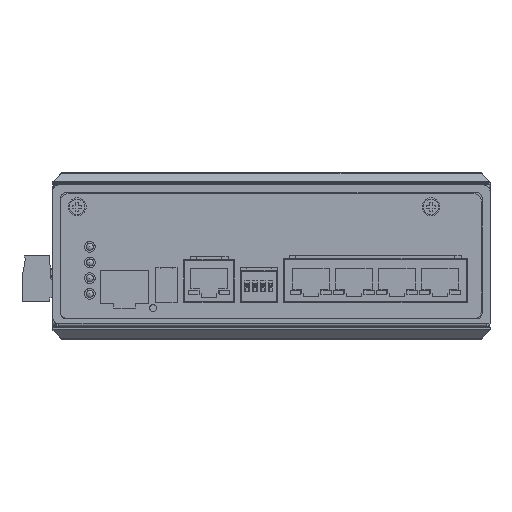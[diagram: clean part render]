
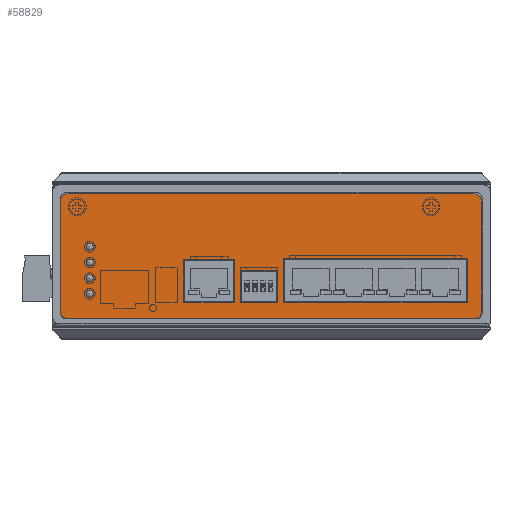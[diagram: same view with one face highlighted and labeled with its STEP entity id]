
A CAD part, top view. The second image highlights one B-rep face of the part: STEP entity #58829.
In plain terms, the highlighted planar face has unit normal (0, 0, 1).
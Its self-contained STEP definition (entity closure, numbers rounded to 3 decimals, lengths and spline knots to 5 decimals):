
#2985=LINE('',#91644,#8692);
#2989=LINE('',#91653,#8696);
#2992=LINE('',#91659,#8699);
#2994=LINE('',#91662,#8701);
#2997=LINE('',#91668,#8704);
#3001=LINE('',#91677,#8708);
#3004=LINE('',#91683,#8711);
#3006=LINE('',#91686,#8713);
#3009=LINE('',#91692,#8716);
#3012=LINE('',#91698,#8719);
#3015=LINE('',#91704,#8722);
#3019=LINE('',#91711,#8726);
#3020=LINE('',#91733,#8727);
#3021=LINE('',#91738,#8728);
#3022=LINE('',#91742,#8729);
#3023=LINE('',#91746,#8730);
#8692=VECTOR('',#73908,1.);
#8696=VECTOR('',#73914,1.);
#8699=VECTOR('',#73919,1.);
#8701=VECTOR('',#73923,1.);
#8704=VECTOR('',#73928,1.);
#8708=VECTOR('',#73934,1.);
#8711=VECTOR('',#73939,1.);
#8713=VECTOR('',#73943,1.);
#8716=VECTOR('',#73948,1.);
#8719=VECTOR('',#73953,1.);
#8722=VECTOR('',#73958,1.);
#8726=VECTOR('',#73964,1.);
#8727=VECTOR('',#73991,1.);
#8728=VECTOR('',#73994,1.);
#8729=VECTOR('',#73997,1.);
#8730=VECTOR('',#74000,1.);
#13120=PLANE('',#63820);
#21718=ORIENTED_EDGE('',*,*,#35041,.T.);
#21719=ORIENTED_EDGE('',*,*,#35045,.T.);
#21720=ORIENTED_EDGE('',*,*,#35048,.T.);
#21721=ORIENTED_EDGE('',*,*,#35050,.T.);
#21722=ORIENTED_EDGE('',*,*,#35053,.T.);
#21723=ORIENTED_EDGE('',*,*,#35057,.T.);
#21724=ORIENTED_EDGE('',*,*,#35060,.T.);
#21725=ORIENTED_EDGE('',*,*,#35062,.T.);
#21726=ORIENTED_EDGE('',*,*,#35071,.T.);
#21727=ORIENTED_EDGE('',*,*,#35068,.T.);
#21728=ORIENTED_EDGE('',*,*,#35065,.T.);
#21729=ORIENTED_EDGE('',*,*,#35075,.F.);
#21730=ORIENTED_EDGE('',*,*,#35076,.F.);
#21731=ORIENTED_EDGE('',*,*,#35078,.F.);
#21732=ORIENTED_EDGE('',*,*,#35080,.F.);
#21733=ORIENTED_EDGE('',*,*,#35082,.F.);
#21734=ORIENTED_EDGE('',*,*,#35084,.F.);
#21735=ORIENTED_EDGE('',*,*,#35085,.F.);
#21736=ORIENTED_EDGE('',*,*,#35086,.F.);
#21737=ORIENTED_EDGE('',*,*,#35087,.F.);
#21738=ORIENTED_EDGE('',*,*,#35088,.F.);
#21739=ORIENTED_EDGE('',*,*,#35089,.F.);
#21740=ORIENTED_EDGE('',*,*,#35090,.F.);
#21741=ORIENTED_EDGE('',*,*,#35091,.F.);
#35041=EDGE_CURVE('',#42362,#42361,#2985,.T.);
#35045=EDGE_CURVE('',#42361,#42365,#2989,.T.);
#35048=EDGE_CURVE('',#42365,#42367,#2992,.T.);
#35050=EDGE_CURVE('',#42367,#42362,#2994,.T.);
#35053=EDGE_CURVE('',#42370,#42369,#2997,.T.);
#35057=EDGE_CURVE('',#42369,#42373,#3001,.T.);
#35060=EDGE_CURVE('',#42373,#42375,#3004,.T.);
#35062=EDGE_CURVE('',#42375,#42370,#3006,.T.);
#35065=EDGE_CURVE('',#42378,#42377,#3009,.T.);
#35068=EDGE_CURVE('',#42380,#42378,#3012,.T.);
#35071=EDGE_CURVE('',#42382,#42380,#3015,.T.);
#35075=EDGE_CURVE('',#42382,#42377,#3019,.T.);
#35076=EDGE_CURVE('',#42384,#42384,#46680,.T.);
#35078=EDGE_CURVE('',#42386,#42386,#46682,.T.);
#35080=EDGE_CURVE('',#42388,#42388,#46684,.T.);
#35082=EDGE_CURVE('',#42390,#42390,#46686,.T.);
#35084=EDGE_CURVE('',#42392,#42393,#3020,.T.);
#35085=EDGE_CURVE('',#42394,#42392,#46688,.T.);
#35086=EDGE_CURVE('',#42395,#42394,#3021,.T.);
#35087=EDGE_CURVE('',#42396,#42395,#46689,.T.);
#35088=EDGE_CURVE('',#42397,#42396,#3022,.T.);
#35089=EDGE_CURVE('',#42398,#42397,#46690,.T.);
#35090=EDGE_CURVE('',#42399,#42398,#3023,.T.);
#35091=EDGE_CURVE('',#42393,#42399,#46691,.T.);
#42361=VERTEX_POINT('',#91643);
#42362=VERTEX_POINT('',#91645);
#42365=VERTEX_POINT('',#91652);
#42367=VERTEX_POINT('',#91658);
#42369=VERTEX_POINT('',#91667);
#42370=VERTEX_POINT('',#91669);
#42373=VERTEX_POINT('',#91676);
#42375=VERTEX_POINT('',#91682);
#42377=VERTEX_POINT('',#91691);
#42378=VERTEX_POINT('',#91693);
#42380=VERTEX_POINT('',#91699);
#42382=VERTEX_POINT('',#91705);
#42384=VERTEX_POINT('',#91714);
#42386=VERTEX_POINT('',#91719);
#42388=VERTEX_POINT('',#91724);
#42390=VERTEX_POINT('',#91729);
#42392=VERTEX_POINT('',#91734);
#42393=VERTEX_POINT('',#91735);
#42394=VERTEX_POINT('',#91737);
#42395=VERTEX_POINT('',#91739);
#42396=VERTEX_POINT('',#91741);
#42397=VERTEX_POINT('',#91743);
#42398=VERTEX_POINT('',#91745);
#42399=VERTEX_POINT('',#91747);
#46680=CIRCLE('',#63809,0.00115);
#46682=CIRCLE('',#63812,0.00115);
#46684=CIRCLE('',#63815,0.00115);
#46686=CIRCLE('',#63818,0.00115);
#46688=CIRCLE('',#63821,0.0025);
#46689=CIRCLE('',#63822,0.0025);
#46690=CIRCLE('',#63823,0.0025);
#46691=CIRCLE('',#63824,0.0025);
#49911=EDGE_LOOP('',(#21718,#21719,#21720,#21721));
#49912=EDGE_LOOP('',(#21722,#21723,#21724,#21725));
#49913=EDGE_LOOP('',(#21726,#21727,#21728,#21729));
#49914=EDGE_LOOP('',(#21730));
#49915=EDGE_LOOP('',(#21731));
#49916=EDGE_LOOP('',(#21732));
#49917=EDGE_LOOP('',(#21733));
#49918=EDGE_LOOP('',(#21734,#21735,#21736,#21737,#21738,#21739,#21740,#21741));
#54660=FACE_BOUND('',#49911,.T.);
#54661=FACE_BOUND('',#49912,.T.);
#54662=FACE_BOUND('',#49913,.T.);
#54663=FACE_BOUND('',#49914,.T.);
#54664=FACE_BOUND('',#49915,.T.);
#54665=FACE_BOUND('',#49916,.T.);
#54666=FACE_BOUND('',#49917,.T.);
#54667=FACE_BOUND('',#49918,.T.);
#58829=ADVANCED_FACE('',(#54660,#54661,#54662,#54663,#54664,#54665,#54666,
#54667),#13120,.T.);
#63809=AXIS2_PLACEMENT_3D('',#91713,#73967,#73968);
#63812=AXIS2_PLACEMENT_3D('',#91718,#73973,#73974);
#63815=AXIS2_PLACEMENT_3D('',#91723,#73979,#73980);
#63818=AXIS2_PLACEMENT_3D('',#91728,#73985,#73986);
#63820=AXIS2_PLACEMENT_3D('',#91732,#73989,#73990);
#63821=AXIS2_PLACEMENT_3D('',#91736,#73992,#73993);
#63822=AXIS2_PLACEMENT_3D('',#91740,#73995,#73996);
#63823=AXIS2_PLACEMENT_3D('',#91744,#73998,#73999);
#63824=AXIS2_PLACEMENT_3D('',#91748,#74001,#74002);
#73908=DIRECTION('',(0.,-1.,0.));
#73914=DIRECTION('',(-1.,0.,0.));
#73919=DIRECTION('',(0.,1.,0.));
#73923=DIRECTION('',(1.,0.,0.));
#73928=DIRECTION('',(1.,0.,0.));
#73934=DIRECTION('',(0.,-1.,0.));
#73939=DIRECTION('',(-1.,0.,0.));
#73943=DIRECTION('',(0.,1.,0.));
#73948=DIRECTION('',(0.,1.,0.));
#73953=DIRECTION('',(-1.,0.,0.));
#73958=DIRECTION('',(0.,-1.,0.));
#73964=DIRECTION('',(-1.,0.,0.));
#73967=DIRECTION('',(0.,0.,1.));
#73968=DIRECTION('',(0.,-1.,0.));
#73973=DIRECTION('',(0.,0.,1.));
#73974=DIRECTION('',(0.,-1.,0.));
#73979=DIRECTION('',(0.,0.,1.));
#73980=DIRECTION('',(0.,-1.,0.));
#73985=DIRECTION('',(0.,0.,1.));
#73986=DIRECTION('',(0.,-1.,0.));
#73989=DIRECTION('',(0.,0.,1.));
#73990=DIRECTION('',(1.,0.,0.));
#73991=DIRECTION('',(1.,0.,0.));
#73992=DIRECTION('',(0.,0.,-1.));
#73993=DIRECTION('',(-1.,0.,0.));
#73994=DIRECTION('',(0.,1.,0.));
#73995=DIRECTION('',(0.,0.,-1.));
#73996=DIRECTION('',(0.,-1.,0.));
#73997=DIRECTION('',(-1.,0.,0.));
#73998=DIRECTION('',(0.,0.,-1.));
#73999=DIRECTION('',(1.,0.,0.));
#74000=DIRECTION('',(0.,-1.,0.));
#74001=DIRECTION('',(0.,0.,-1.));
#74002=DIRECTION('',(0.,1.,0.));
#91643=CARTESIAN_POINT('',(0.0014,0.0079,0.04865));
#91644=CARTESIAN_POINT('',(0.0014,0.0182,0.04865));
#91645=CARTESIAN_POINT('',(0.0014,0.0182,0.04865));
#91652=CARTESIAN_POINT('',(-0.01052,0.0079,0.04865));
#91653=CARTESIAN_POINT('',(0.0014,0.0079,0.04865));
#91658=CARTESIAN_POINT('',(-0.01052,0.0182,0.04865));
#91659=CARTESIAN_POINT('',(-0.01052,0.0079,0.04865));
#91662=CARTESIAN_POINT('',(-0.01052,0.0182,0.04865));
#91667=CARTESIAN_POINT('',(0.06311,0.022,0.04865));
#91668=CARTESIAN_POINT('',(0.00345,0.022,0.04865));
#91669=CARTESIAN_POINT('',(0.00345,0.022,0.04865));
#91676=CARTESIAN_POINT('',(0.06311,0.0078,0.04865));
#91677=CARTESIAN_POINT('',(0.06311,0.022,0.04865));
#91682=CARTESIAN_POINT('',(0.00345,0.0078,0.04865));
#91683=CARTESIAN_POINT('',(0.06311,0.0078,0.04865));
#91686=CARTESIAN_POINT('',(0.00345,0.0078,0.04865));
#91691=CARTESIAN_POINT('',(-0.02893,0.02175,0.04865));
#91692=CARTESIAN_POINT('',(-0.02893,0.0078,0.04865));
#91693=CARTESIAN_POINT('',(-0.02893,0.0078,0.04865));
#91698=CARTESIAN_POINT('',(-0.00065,0.0078,0.04865));
#91699=CARTESIAN_POINT('',(-0.01258,0.0078,0.04865));
#91704=CARTESIAN_POINT('',(-0.01258,0.02175,0.04865));
#91705=CARTESIAN_POINT('',(-0.01258,0.02175,0.04865));
#91711=CARTESIAN_POINT('',(-0.01258,0.02175,0.04865));
#91713=CARTESIAN_POINT('',(-0.0595,0.02588,0.04865));
#91714=CARTESIAN_POINT('',(-0.0595,0.02473,0.04865));
#91718=CARTESIAN_POINT('',(-0.0595,0.0208,0.04865));
#91719=CARTESIAN_POINT('',(-0.0595,0.01965,0.04865));
#91723=CARTESIAN_POINT('',(-0.0595,0.01572,0.04865));
#91724=CARTESIAN_POINT('',(-0.0595,0.01457,0.04865));
#91728=CARTESIAN_POINT('',(-0.0595,0.01064,0.04865));
#91729=CARTESIAN_POINT('',(-0.0595,0.00949,0.04865));
#91732=CARTESIAN_POINT('',(-0.00065,0.02285,0.04865));
#91733=CARTESIAN_POINT('',(-0.0665,0.0432,0.04865));
#91734=CARTESIAN_POINT('',(-0.0665,0.0432,0.04865));
#91735=CARTESIAN_POINT('',(0.0652,0.0432,0.04865));
#91736=CARTESIAN_POINT('',(-0.0665,0.0407,0.04865));
#91737=CARTESIAN_POINT('',(-0.069,0.0407,0.04865));
#91738=CARTESIAN_POINT('',(-0.069,0.005,0.04865));
#91739=CARTESIAN_POINT('',(-0.069,0.005,0.04865));
#91740=CARTESIAN_POINT('',(-0.0665,0.005,0.04865));
#91741=CARTESIAN_POINT('',(-0.0665,0.0025,0.04865));
#91742=CARTESIAN_POINT('',(0.0652,0.0025,0.04865));
#91743=CARTESIAN_POINT('',(0.0652,0.0025,0.04865));
#91744=CARTESIAN_POINT('',(0.0652,0.005,0.04865));
#91745=CARTESIAN_POINT('',(0.0677,0.005,0.04865));
#91746=CARTESIAN_POINT('',(0.0677,0.0407,0.04865));
#91747=CARTESIAN_POINT('',(0.0677,0.0407,0.04865));
#91748=CARTESIAN_POINT('',(0.0652,0.0407,0.04865));
